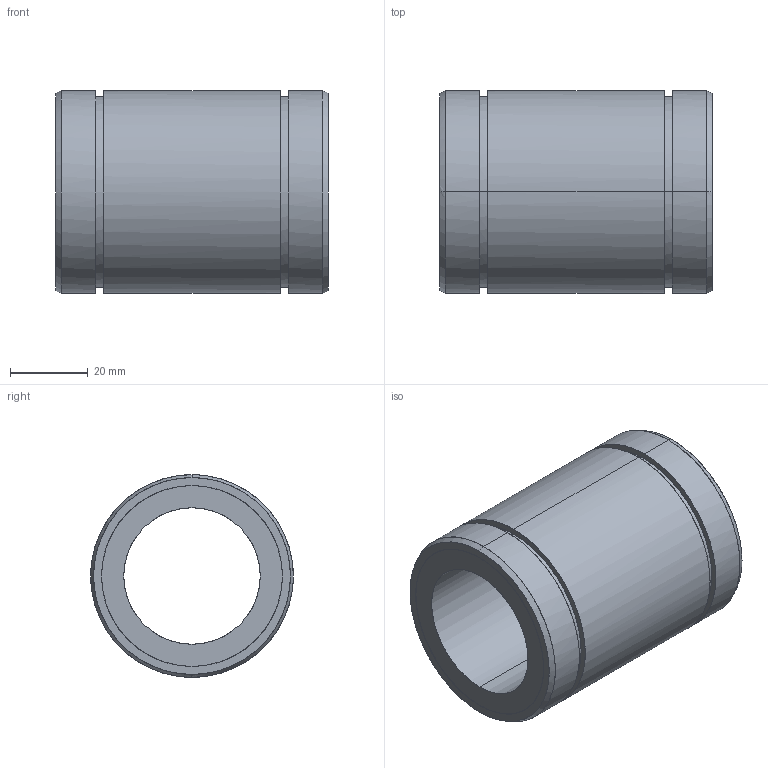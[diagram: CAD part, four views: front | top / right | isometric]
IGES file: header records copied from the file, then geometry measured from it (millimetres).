
Global section: file name: No Iges File Name specified; native system: AutoDesk Inventor R10; preprocessor: AutoDesk Inventor Iges Exporter R10; author: No Author specified; organization: No Organization specified; date: 20101208.095113; units: millimetre
Bounding box: 70 x 52 x 52 mm (x, y, z)
Surface area: 22188.4 mm2 (no closed solid volume)
Topology: 0 solids, 0 shells, 28 faces, 184 edges, 184 vertices
Faces by surface type: bspline 28
